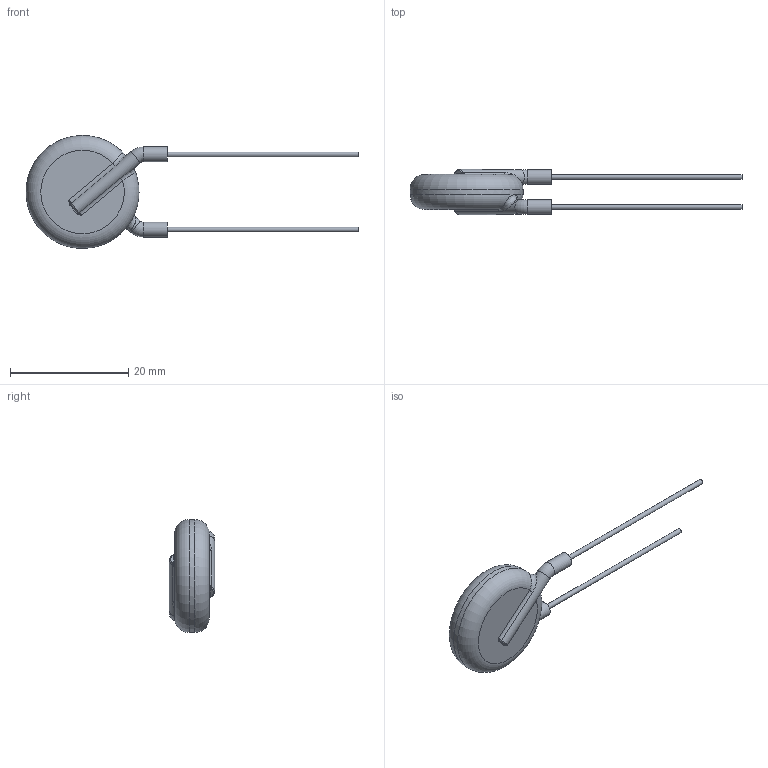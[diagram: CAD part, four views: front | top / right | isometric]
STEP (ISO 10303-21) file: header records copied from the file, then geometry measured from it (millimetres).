
FILE_DESCRIPTION((''),'2;1');
FILE_NAME('I:\Marketing\M6t1\3D-Models\Zchng-Werk-3\Upload for homepage\Ceramite\T3M-10kV\615R100GATT68\615R100GATT68.stp','2015-08-28T09:43:26',(''),(''),'Autodesk Inventor 2013','Autodesk Inventor 2013','');
FILE_SCHEMA(('AUTOMOTIVE_DESIGN { 1 0 10303 214 1 1 1 1 }'));
Length unit declared in the file: centimetre
Products named in the file (1): 615R100GATT68
Bounding box: 56.1 x 7.62 x 19.1 mm (x, y, z)
Surface area: 1090.3 mm2 (no closed solid volume)
Topology: 0 solids, 1 shells, 37 faces, 86 edges, 48 vertices
Faces by surface type: cylinder 13, torus 10, plane 8, bspline 6
Full cylindrical faces by diameter (mm): 0.81 x2, 2.52 x4, 19.1 x1
Entity records: 1319 total; most frequent: CARTESIAN_POINT 542, DIRECTION 152, ORIENTED_EDGE 124, AXIS2_PLACEMENT_3D 70, EDGE_CURVE 62, EDGE_LOOP 50, VERTEX_POINT 40, CIRCLE 38
